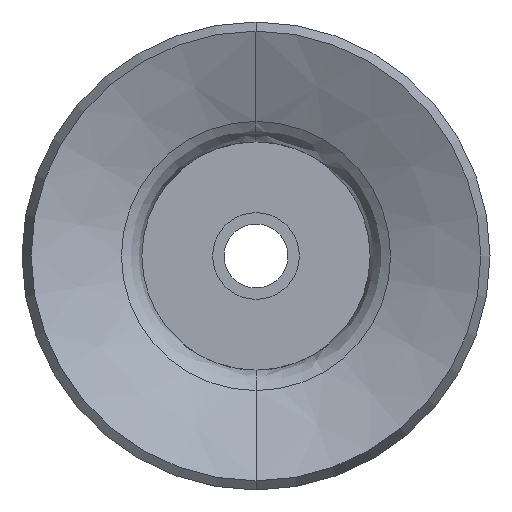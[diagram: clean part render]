
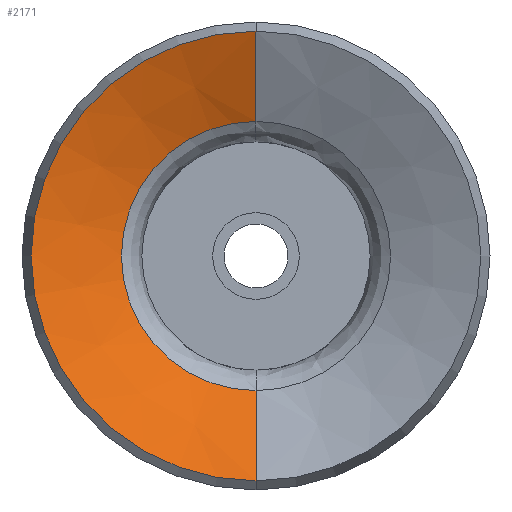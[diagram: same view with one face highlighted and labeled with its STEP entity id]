
A CAD part, front view. The second image highlights one B-rep face of the part: STEP entity #2171.
In plain terms, the highlighted conical face has half-angle 66.264 degrees and reference radius 9.848 mm.
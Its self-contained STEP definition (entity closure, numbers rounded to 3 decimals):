
#17 = CARTESIAN_POINT ( 'NONE',  ( 0., -23., 9.847 ) ) ;
#73 = DIRECTION ( 'NONE',  ( 0., 0., 1. ) ) ;
#78 = AXIS2_PLACEMENT_3D ( 'NONE', #599, #2300, #401 ) ;
#94 = CARTESIAN_POINT ( 'NONE',  ( 0., -23., 0. ) ) ;
#178 = CARTESIAN_POINT ( 'NONE',  ( 0., -21.262, -5.895 ) ) ;
#401 = DIRECTION ( 'NONE',  ( 0., 0., -1. ) ) ;
#432 = ORIENTED_EDGE ( 'NONE', *, *, #875, .F. ) ;
#580 = CARTESIAN_POINT ( 'NONE',  ( 0., -23., 9.847 ) ) ;
#599 = CARTESIAN_POINT ( 'NONE',  ( 0., -23., 0. ) ) ;
#657 = DIRECTION ( 'NONE',  ( 0., -1., 0. ) ) ;
#756 = DIRECTION ( 'NONE',  ( 0., -0.403, -0.915 ) ) ;
#771 = EDGE_CURVE ( 'NONE', #1422, #1425, #2304, .T. ) ;
#875 = EDGE_CURVE ( 'NONE', #1425, #2533, #2245, .T. ) ;
#887 = CARTESIAN_POINT ( 'NONE',  ( 0., -21.262, 5.895 ) ) ;
#1021 = VERTEX_POINT ( 'NONE', #887 ) ;
#1081 = ORIENTED_EDGE ( 'NONE', *, *, #2211, .T. ) ;
#1091 = CARTESIAN_POINT ( 'NONE',  ( 0., -21.262, 0. ) ) ;
#1351 = CONICAL_SURFACE ( 'NONE', #78, 9.847, 1.157 ) ;
#1383 = CARTESIAN_POINT ( 'NONE',  ( 0., -23., -9.847 ) ) ;
#1418 = VECTOR ( 'NONE', #756, 1000. ) ;
#1422 = VERTEX_POINT ( 'NONE', #178 ) ;
#1425 = VERTEX_POINT ( 'NONE', #2667 ) ;
#1594 = EDGE_LOOP ( 'NONE', ( #1719, #1081, #432, #2265 ) ) ;
#1719 = ORIENTED_EDGE ( 'NONE', *, *, #2497, .F. ) ;
#1845 = VECTOR ( 'NONE', #2692, 1000. ) ;
#1924 = DIRECTION ( 'NONE',  ( 0., 0., -1. ) ) ;
#1970 = CIRCLE ( 'NONE', #2534, 5.895 ) ;
#2171 = ADVANCED_FACE ( 'NONE', ( #2530 ), #1351, .F. ) ;
#2211 = EDGE_CURVE ( 'NONE', #1021, #2533, #2370, .T. ) ;
#2245 = CIRCLE ( 'NONE', #2284, 9.847 ) ;
#2265 = ORIENTED_EDGE ( 'NONE', *, *, #771, .F. ) ;
#2284 = AXIS2_PLACEMENT_3D ( 'NONE', #94, #2377, #73 ) ;
#2300 = DIRECTION ( 'NONE',  ( 0., -1., 0. ) ) ;
#2304 = LINE ( 'NONE', #1383, #1418 ) ;
#2370 = LINE ( 'NONE', #580, #1845 ) ;
#2377 = DIRECTION ( 'NONE',  ( 0., 1., 0. ) ) ;
#2497 = EDGE_CURVE ( 'NONE', #1021, #1422, #1970, .T. ) ;
#2530 = FACE_OUTER_BOUND ( 'NONE', #1594, .T. ) ;
#2533 = VERTEX_POINT ( 'NONE', #17 ) ;
#2534 = AXIS2_PLACEMENT_3D ( 'NONE', #1091, #657, #1924 ) ;
#2667 = CARTESIAN_POINT ( 'NONE',  ( 0., -23., -9.847 ) ) ;
#2692 = DIRECTION ( 'NONE',  ( 0., -0.403, 0.915 ) ) ;
